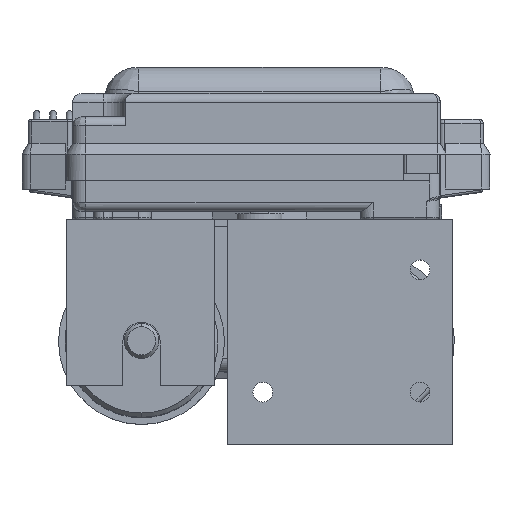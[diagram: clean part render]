
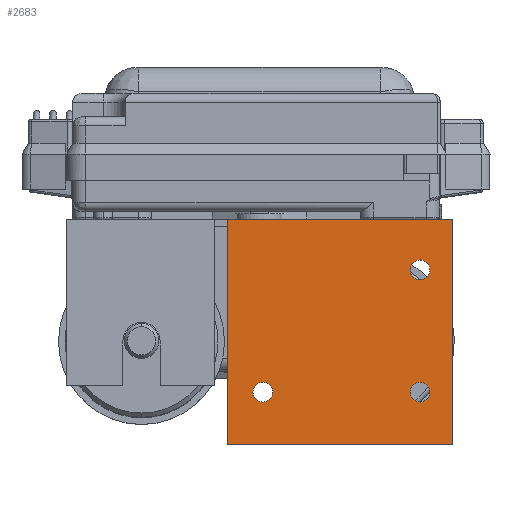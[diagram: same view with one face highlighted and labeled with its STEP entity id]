
A CAD part, top view. The second image highlights one B-rep face of the part: STEP entity #2683.
In plain terms, the highlighted planar face has unit normal (0, 0, 1).
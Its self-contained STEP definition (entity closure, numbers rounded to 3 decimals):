
#411=DIRECTION('',(1.,0.,0.));
#412=VECTOR('',#411,51.5);
#413=CARTESIAN_POINT('',(-7.25,1.5,0.));
#414=LINE('',#413,#412);
#730=DIRECTION('',(0.,-1.,0.));
#731=VECTOR('',#730,51.5);
#732=CARTESIAN_POINT('',(44.25,1.5,0.));
#733=LINE('',#732,#731);
#734=DIRECTION('',(0.,1.,0.));
#735=VECTOR('',#734,51.5);
#736=CARTESIAN_POINT('',(-7.25,-50.,0.));
#737=LINE('',#736,#735);
#738=CARTESIAN_POINT('',(36.75,-38.,0.));
#739=DIRECTION('',(0.,0.,1.));
#740=DIRECTION('',(1.,0.,0.));
#741=AXIS2_PLACEMENT_3D('',#738,#739,#740);
#743=CARTESIAN_POINT('',(36.75,-38.,0.));
#744=DIRECTION('',(0.,0.,1.));
#745=DIRECTION('',(-1.,0.,0.));
#746=AXIS2_PLACEMENT_3D('',#743,#744,#745);
#748=CARTESIAN_POINT('',(0.75,-38.,0.));
#749=DIRECTION('',(0.,0.,1.));
#750=DIRECTION('',(1.,0.,0.));
#751=AXIS2_PLACEMENT_3D('',#748,#749,#750);
#753=CARTESIAN_POINT('',(0.75,-38.,0.));
#754=DIRECTION('',(0.,0.,1.));
#755=DIRECTION('',(-1.,0.,0.));
#756=AXIS2_PLACEMENT_3D('',#753,#754,#755);
#758=CARTESIAN_POINT('',(36.75,-10.,0.));
#759=DIRECTION('',(0.,0.,1.));
#760=DIRECTION('',(1.,0.,0.));
#761=AXIS2_PLACEMENT_3D('',#758,#759,#760);
#763=CARTESIAN_POINT('',(36.75,-10.,0.));
#764=DIRECTION('',(0.,0.,1.));
#765=DIRECTION('',(-1.,0.,0.));
#766=AXIS2_PLACEMENT_3D('',#763,#764,#765);
#772=DIRECTION('',(-1.,0.,0.));
#773=VECTOR('',#772,51.5);
#774=CARTESIAN_POINT('',(44.25,-50.,0.));
#775=LINE('',#774,#773);
#1688=CARTESIAN_POINT('',(44.25,1.5,0.));
#1690=VERTEX_POINT('',#1688);
#1702=CARTESIAN_POINT('',(-7.25,1.5,0.));
#1703=VERTEX_POINT('',#1702);
#1760=CARTESIAN_POINT('',(-7.25,-50.,0.));
#1762=VERTEX_POINT('',#1760);
#1766=CARTESIAN_POINT('',(44.25,-50.,0.));
#1767=VERTEX_POINT('',#1766);
#1820=CARTESIAN_POINT('',(39.,-38.,0.));
#1821=CARTESIAN_POINT('',(34.5,-38.,0.));
#1822=VERTEX_POINT('',#1820);
#1823=VERTEX_POINT('',#1821);
#1828=CARTESIAN_POINT('',(3.,-38.,0.));
#1829=CARTESIAN_POINT('',(-1.5,-38.,0.));
#1830=VERTEX_POINT('',#1828);
#1831=VERTEX_POINT('',#1829);
#1836=CARTESIAN_POINT('',(39.,-10.,0.));
#1837=CARTESIAN_POINT('',(34.5,-10.,0.));
#1838=VERTEX_POINT('',#1836);
#1839=VERTEX_POINT('',#1837);
#2653=CARTESIAN_POINT('',(-7.25,0.,0.));
#2654=DIRECTION('',(0.,0.,1.));
#2655=DIRECTION('',(1.,0.,0.));
#2656=AXIS2_PLACEMENT_3D('',#2653,#2654,#2655);
#2657=PLANE('',#2656);
#2658=ORIENTED_EDGE('',*,*,#2596,.T.);
#2660=ORIENTED_EDGE('',*,*,#2659,.T.);
#2661=ORIENTED_EDGE('',*,*,#2641,.T.);
#2662=ORIENTED_EDGE('',*,*,#2438,.T.);
#2663=EDGE_LOOP('',(#2658,#2660,#2661,#2662));
#2664=FACE_OUTER_BOUND('',#2663,.F.);
#2666=ORIENTED_EDGE('',*,*,#2665,.T.);
#2668=ORIENTED_EDGE('',*,*,#2667,.T.);
#2669=EDGE_LOOP('',(#2666,#2668));
#2670=FACE_BOUND('',#2669,.F.);
#2672=ORIENTED_EDGE('',*,*,#2671,.T.);
#2674=ORIENTED_EDGE('',*,*,#2673,.T.);
#2675=EDGE_LOOP('',(#2672,#2674));
#2676=FACE_BOUND('',#2675,.F.);
#2678=ORIENTED_EDGE('',*,*,#2677,.T.);
#2680=ORIENTED_EDGE('',*,*,#2679,.T.);
#2681=EDGE_LOOP('',(#2678,#2680));
#2682=FACE_BOUND('',#2681,.F.);
#2683=ADVANCED_FACE('',(#2664,#2670,#2676,#2682),#2657,.T.);
#742=CIRCLE('',#741,2.25);
#747=CIRCLE('',#746,2.25);
#752=CIRCLE('',#751,2.25);
#757=CIRCLE('',#756,2.25);
#762=CIRCLE('',#761,2.25);
#767=CIRCLE('',#766,2.25);
#2438=EDGE_CURVE('',#1703,#1690,#414,.T.);
#2596=EDGE_CURVE('',#1690,#1767,#733,.T.);
#2641=EDGE_CURVE('',#1762,#1703,#737,.T.);
#2659=EDGE_CURVE('',#1767,#1762,#775,.T.);
#2665=EDGE_CURVE('',#1822,#1823,#742,.T.);
#2667=EDGE_CURVE('',#1823,#1822,#747,.T.);
#2671=EDGE_CURVE('',#1830,#1831,#752,.T.);
#2673=EDGE_CURVE('',#1831,#1830,#757,.T.);
#2677=EDGE_CURVE('',#1838,#1839,#762,.T.);
#2679=EDGE_CURVE('',#1839,#1838,#767,.T.);
